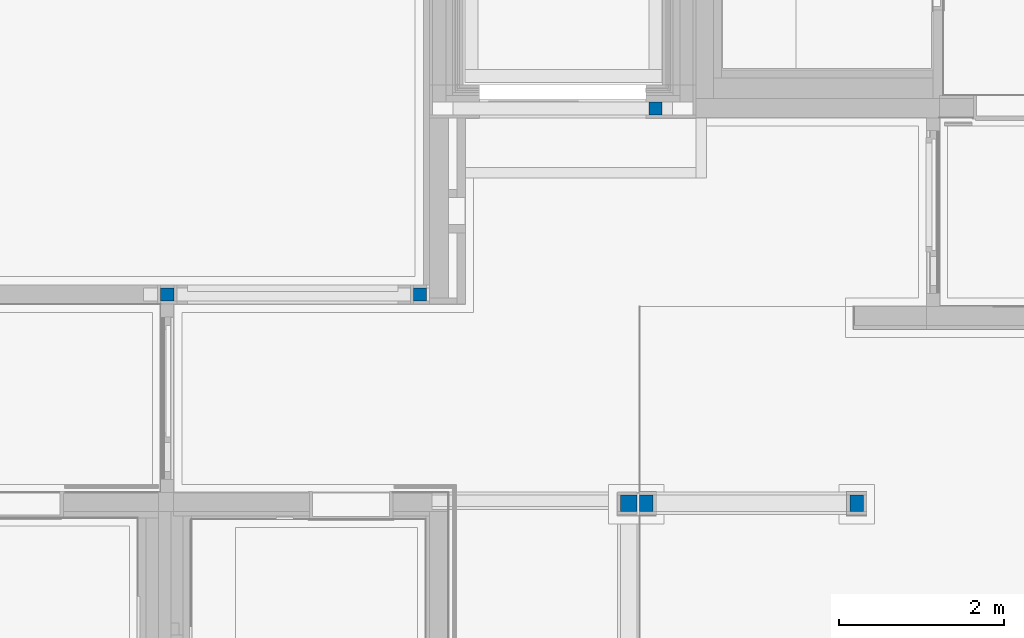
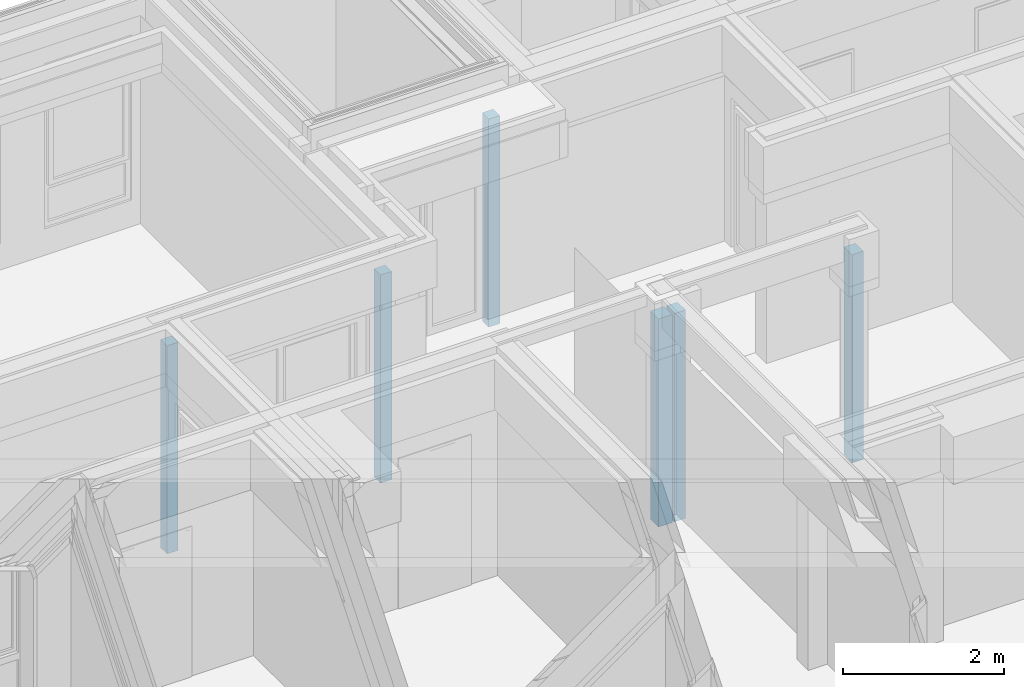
# One storey, part 4 of 222: 7 columns.
"""IFC4 building model written with IfcOpenShell, lengths in metres."""

from ifc_helpers import new_model, entity, si_unit, converted_unit, derived_unit, frame, frame_2d, origin, origin_with_axes, place, context, subcontext, project, spatial, rectangle, extrude, material, element, save


model = new_model("IFC4")

# Units and contexts
model_context = context("Model", 3, precision=1e-05, world=origin())
body_context = subcontext(model_context, "Body", "Model", "MODEL_VIEW")
ifc_project = project(units=[si_unit("LENGTHUNIT", "METRE"), si_unit("AREAUNIT", "SQUARE_METRE"), si_unit("VOLUMEUNIT", "CUBIC_METRE"), si_unit("MASSUNIT", "GRAM", prefix="KILO"), converted_unit("PLANEANGLEUNIT", "DEGREE", entity("IfcPlaneAngleMeasure", 0.0174532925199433), si_unit("PLANEANGLEUNIT", "RADIAN"), dimensions=[0, 0, 0, 0, 0, 0, 0]), derived_unit("THERMALTRANSMITTANCEUNIT", [(si_unit("POWERUNIT", "WATT"), 1), (si_unit("THERMODYNAMICTEMPERATUREUNIT", "KELVIN"), -1), (si_unit("LENGTHUNIT", "METRE"), -2)]), derived_unit("VOLUMETRICFLOWRATEUNIT", [(si_unit("LENGTHUNIT", "METRE"), 3), (converted_unit("TIMEUNIT", "hour", entity("IfcTimeMeasure", 3600.0), si_unit("TIMEUNIT", "SECOND"), dimensions=[0, 0, 1, 0, 0, 0, 0]), -1), (si_unit("LENGTHUNIT", "METRE"), -1)])], contexts=[model_context])

# Site, building, storey
site_placement = place(None, origin())
site = spatial("IfcSite", under=ifc_project, at=site_placement, Name="Psychiatrie Neubau Wunstorf", CompositionType="ELEMENT")
building_placement = place(site_placement, origin())
building = spatial("IfcBuilding", under=site, at=building_placement, Name="Neubau H2 Stationsgebäude", CompositionType="ELEMENT")
storey_placement = place(building_placement, frame((0.0, 0.0, 3.6)))
storey = spatial("IfcBuildingStorey", under=building, at=storey_placement, Name="H2 Ebene +1", CompositionType="ELEMENT", Elevation=3.6)

# Columns
ifc_material_1 = material(Name="H")
column_1_placement = place(storey_placement, frame((70.5400048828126, 25.1499938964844, 0.0)))
element("IfcColumn", 1, at=column_1_placement, inside=storey, material=ifc_material_1, PredefinedType="COLUMN", context=body_context, shape_type="SweptSolid", body=[
    extrude(rectangle(XDim=0.16, YDim=0.16, at=frame_2d((0.08, 0.08), x_axis=(1.0, 0.0))), origin_with_axes(), (0.0, 0.0, 1.0), 3.15),
])
ifc_material_2 = material(Name="H")
column_2_placement = place(storey_placement, frame((64.636, 22.90000018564, 0.0)))
element("IfcColumn", 2, at=column_2_placement, inside=storey, material=ifc_material_2, PredefinedType="COLUMN", context=body_context, shape_type="SweptSolid", body=[
    extrude(rectangle(XDim=0.16, YDim=0.16, at=frame_2d((0.08, 0.08), x_axis=(1.0, 0.0))), origin_with_axes(), (0.0, 0.0, 1.0), 3.15),
])
ifc_material_3 = material(Name="H")
column_3_placement = place(storey_placement, frame((67.693, 22.900000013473, 0.0)))
element("IfcColumn", 3, at=column_3_placement, inside=storey, material=ifc_material_3, PredefinedType="COLUMN", context=body_context, shape_type="SweptSolid", body=[
    extrude(rectangle(XDim=0.16, YDim=0.16, at=frame_2d((0.08, 0.08), x_axis=(1.0, 0.0))), origin_with_axes(), (0.0, 0.0, 1.0), 3.15),
])
ifc_material_4 = material(Name="H")
column_4_placement = place(storey_placement, frame((70.2000061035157, 20.3560009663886, 0.0)))
element("IfcColumn", 4, at=column_4_placement, inside=storey, material=ifc_material_4, PredefinedType="COLUMN", context=body_context, shape_type="SweptSolid", body=[
    extrude(rectangle(XDim=0.2, YDim=0.2, at=frame_2d((0.1, 0.1), x_axis=(1.0, 0.0))), origin_with_axes(), (0.0, 0.0, 1.0), 3.15),
])
ifc_material_5 = material(Name="H")
column_5_placement = place(storey_placement, frame((70.4300000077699, 20.3560009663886, 0.0)))
element("IfcColumn", 5, at=column_5_placement, inside=storey, material=ifc_material_5, PredefinedType="COLUMN", context=body_context, shape_type="SweptSolid", body=[
    extrude(rectangle(XDim=0.16, YDim=0.2, at=frame_2d((0.08, 0.1), x_axis=(1.0, 0.0))), origin_with_axes(), (0.0, 0.0, 1.0), 3.15),
])
ifc_material_6 = material(Name="H")
column_6_placement = place(storey_placement, frame((72.9759970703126, 20.3560022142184, 0.0)))
element("IfcColumn", 6, at=column_6_placement, inside=storey, material=ifc_material_6, PredefinedType="COLUMN", context=body_context, shape_type="SweptSolid", body=[
    extrude(rectangle(XDim=0.16, YDim=0.2, at=frame_2d((0.08, 0.1), x_axis=(1.0, 0.0))), origin_with_axes(), (0.0, 0.0, 1.0), 3.15),
])
ifc_material_7 = material(Name="H")
column_7_placement = place(storey_placement, frame((70.5400000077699, 25.15, 0.0)))
element("IfcColumn", 7, at=column_7_placement, inside=storey, material=ifc_material_7, PredefinedType="COLUMN", context=body_context, shape_type="SweptSolid", body=[
    extrude(rectangle(XDim=0.16, YDim=0.16, at=frame_2d((0.08, 0.08), x_axis=(1.0, 0.0))), origin_with_axes(), (0.0, 0.0, 1.0), 3.15),
])

save(model, "model.ifc")
